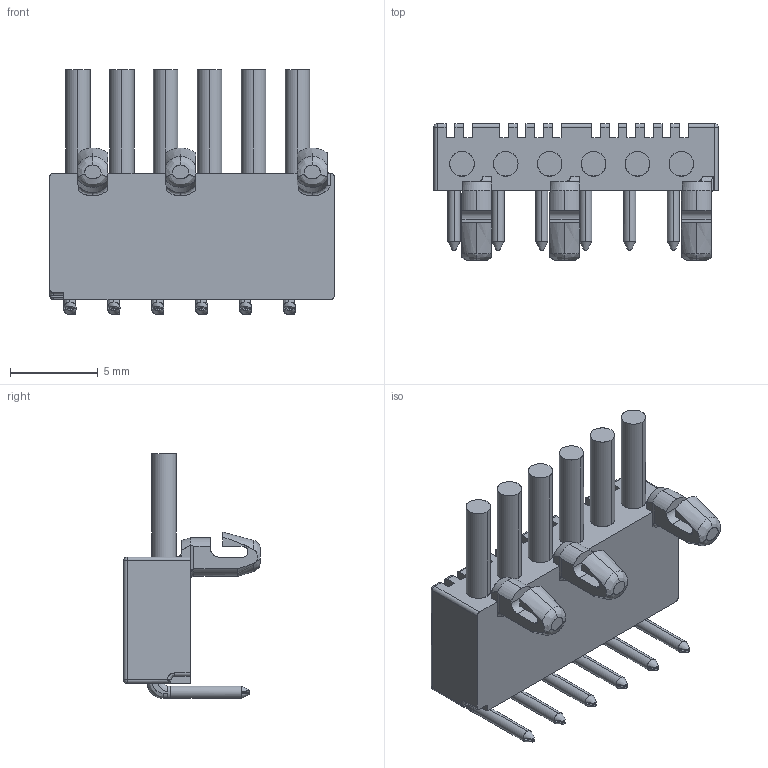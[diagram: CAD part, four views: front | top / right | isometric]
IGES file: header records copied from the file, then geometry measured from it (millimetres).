
Start section: SolidWorks IGES file using analytic representation for surfaces
Global section: file name: C:\Users\08833\OneDrive - I-PEX\デスクトップ\S2144_IARPB CONNECTOR 6P量産図面H(0C)\V0039-91006_HOUSING_IARPB CONNECTOR.IGS; native system: SolidWorks 2022; preprocessor: SolidWorks 2022; author: 08833; date: 231027.184407; units: millimetre
Bounding box: 16.2 x 7.8 x 13.95 mm (x, y, z)
Surface area: 912.4 mm2 (no closed solid volume)
Topology: 0 solids, 0 shells, 635 faces, 4798 edges, 4781 vertices
Faces by surface type: bspline 434, revolution 201
